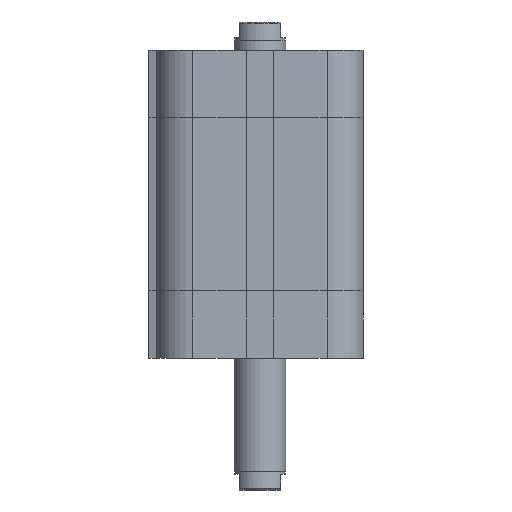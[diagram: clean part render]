
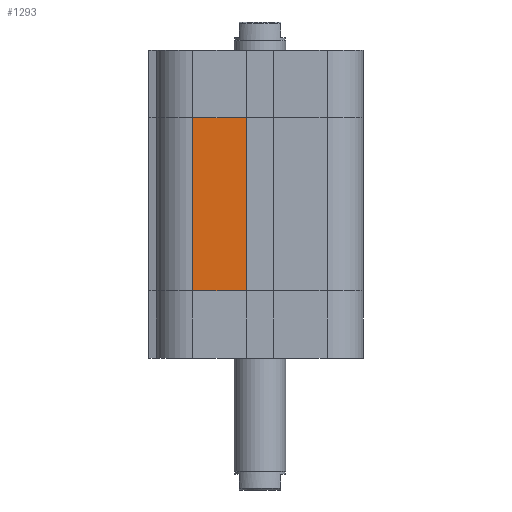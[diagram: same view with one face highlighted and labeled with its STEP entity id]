
A CAD part, left-side view. The second image highlights one B-rep face of the part: STEP entity #1293.
In plain terms, the highlighted planar face has unit normal (-1, 0, 0).
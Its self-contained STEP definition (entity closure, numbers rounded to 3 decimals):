
#1204=CARTESIAN_POINT('',(-20.,13.,13.));
#1205=VERTEX_POINT('',#1204);
#1213=CARTESIAN_POINT('',(-20.,13.,46.5));
#1214=VERTEX_POINT('',#1213);
#1215=CARTESIAN_POINT('',(-20.,13.,13.));
#1216=DIRECTION('',(0.0,0.0,1.0));
#1217=VECTOR('',#1216,33.5);
#1218=LINE('',#1215,#1217);
#1219=EDGE_CURVE('',#1205,#1214,#1218,.T.);
#1263=CARTESIAN_POINT('',(-20.0,2.6,0.0));
#1264=DIRECTION('',(-1.0,0.0,0.0));
#1265=DIRECTION('',(0.0,0.0,1.0));
#1266=AXIS2_PLACEMENT_3D('',#1263,#1264,#1265);
#1267=PLANE('',#1266);
#1268=CARTESIAN_POINT('',(-20.0,2.6,13.));
#1269=VERTEX_POINT('',#1268);
#1270=CARTESIAN_POINT('',(-20.,13.,13.));
#1271=DIRECTION('',(0.0,-1.0,0.0));
#1272=VECTOR('',#1271,10.4);
#1273=LINE('',#1270,#1272);
#1274=EDGE_CURVE('',#1205,#1269,#1273,.T.);
#1275=ORIENTED_EDGE('',*,*,#1274,.T.);
#1276=CARTESIAN_POINT('',(-20.0,2.6,46.5));
#1277=VERTEX_POINT('',#1276);
#1278=CARTESIAN_POINT('',(-20.0,2.6,13.));
#1279=DIRECTION('',(0.0,0.0,1.0));
#1280=VECTOR('',#1279,33.5);
#1281=LINE('',#1278,#1280);
#1282=EDGE_CURVE('',#1269,#1277,#1281,.T.);
#1283=ORIENTED_EDGE('',*,*,#1282,.T.);
#1284=CARTESIAN_POINT('',(-20.,13.,46.5));
#1285=DIRECTION('',(0.0,-1.0,0.0));
#1286=VECTOR('',#1285,10.4);
#1287=LINE('',#1284,#1286);
#1288=EDGE_CURVE('',#1214,#1277,#1287,.T.);
#1289=ORIENTED_EDGE('',*,*,#1288,.F.);
#1290=ORIENTED_EDGE('',*,*,#1219,.F.);
#1291=EDGE_LOOP('',(#1275,#1283,#1289,#1290));
#1292=FACE_OUTER_BOUND('',#1291,.T.);
#1293=ADVANCED_FACE('',(#1292),#1267,.T.);
